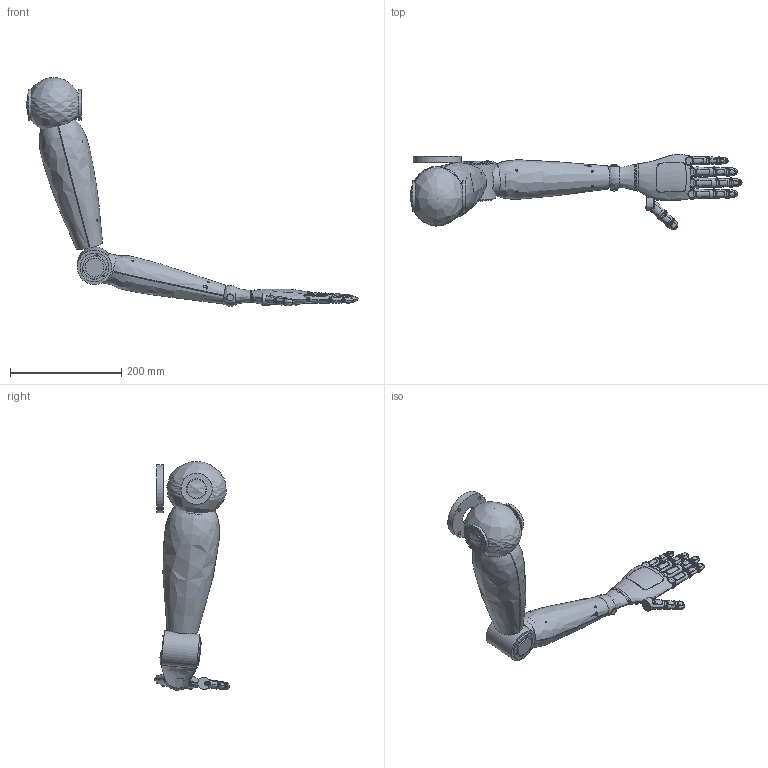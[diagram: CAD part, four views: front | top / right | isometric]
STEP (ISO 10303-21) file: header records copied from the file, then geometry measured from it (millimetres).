
FILE_DESCRIPTION(('FreeCAD Model'),'2;1');
FILE_NAME('Open CASCADE Shape Model','2026-10-05T03:44:24',('FreeCAD'),( 'FreeCAD'),'Open CASCADE STEP processor 7.8','FreeCAD','Unknown');
FILE_SCHEMA(('AUTOMOTIVE_DESIGN { 1 0 10303 214 1 1 1 1 }'));
Products named in the file (1): Open CASCADE STEP translator 7.8 1
Bounding box: 597.06 x 135.63 x 411.64 mm (x, y, z)
Volume: 1793477.8 mm3; surface area: 541868.1 mm2
Topology: 293 solids, 293 shells, 2133 faces, 3904 edges, 2170 vertices
Faces by surface type: cylinder 882, plane 876, sphere 312, bspline 63
Full cylindrical faces by diameter (mm): 0.464 x50, 0.88 x4, 0.9 x20, 1.16 x50, 1.2 x6, 1.36 x4, 1.4 x30, 1.68 x4, 2.1 x15, 2.2 x4, 2.4 x45, 2.8 x2, 3 x6, 3.4 x4, 4.2 x4, 5.4 x15, 6.6 x4, 6.8 x30, 7 x20, 8 x15, 12 x2, 13 x4, 15 x1, 15.2 x4, 20 x1, 22 x2, 32 x1, 34 x5, 36 x3, 38 x2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
Entity records: 71218 total; most frequent: CARTESIAN_POINT 31004, DIRECTION 8810, ORIENTED_EDGE 7268, AXIS2_PLACEMENT_3D 3713, EDGE_CURVE 3634, FACE_BOUND 2400, EDGE_LOOP 2398, VERTEX_POINT 2168
